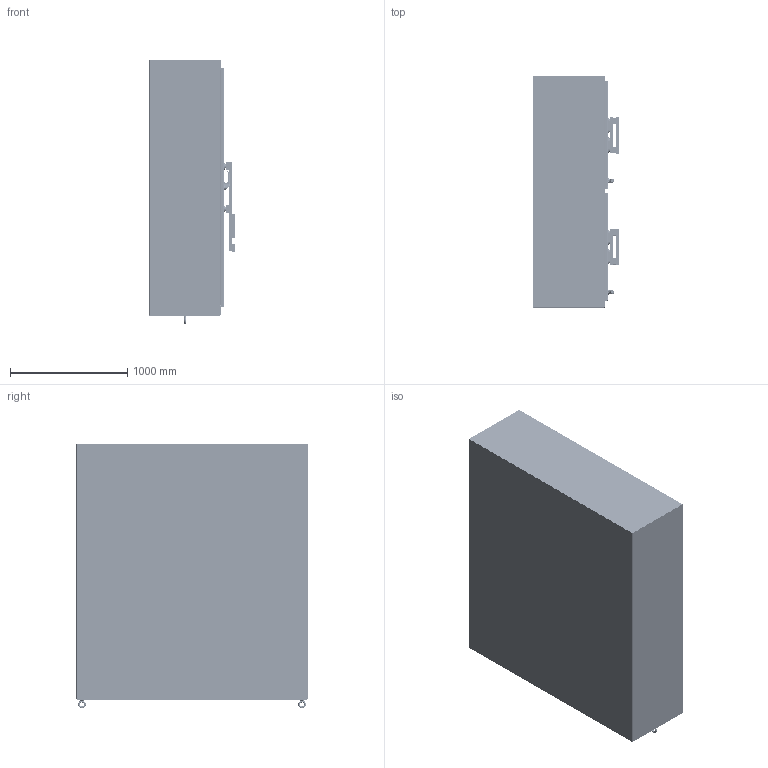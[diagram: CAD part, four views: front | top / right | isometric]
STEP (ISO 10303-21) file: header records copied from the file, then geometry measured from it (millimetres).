
FILE_DESCRIPTION((''),'2;1');
FILE_NAME('MODEL-462_ASM','2023-09-20T14:07:02',('richards'),('SAGINAW CONTROL & ENGINEERING'),'CREO PARAMETRIC BY PTC INC, 2021284','CREO PARAMETRIC BY PTC INC, 2021284','');
FILE_SCHEMA(('AUTOMOTIVE_DESIGN { 1 0 10303 214 1 1 1 1 }'));
Length unit declared in the file: inch
Products named in the file (115): MODEL-462-L-SD; MODEL-462-TP; MODEL-462-R-SD; MODEL-462-BTM; MODEL-462-RH-DR; 100837; 111267; 100882; 100953_HANDLE; 100953_HANDLE_INSERT; 100953_SHAFT_CAM; 100953_ADAPTER_CAM; 100953_NUT_CAM; 100953_BASE; 100953_O-RING; 100953_WASHER_SEALING; 100953_NUT_MOUNTING_LARGE; 100953_NUT_MOUNTING_SMALL; 100953_SCREW_SMALL; 100953_INSERT; 100953_PADLOCK_CATCH; 100953_ASM; 102237; 100030; 102237_ASM; MODEL-462-ROD-RH-UPR; 128146; 128145; 128144; 102482; MODEL-462-ROD-RH-UPR_ASM; 128143; 112504; MODEL-462-ROD-RH-LWR; MODEL-462-ROD-RH-LWR_ASM; MODEL-462-PR-GSKT-RH; DAPUP; DAPUP_ASM; 128258; 128258_ASM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
Assembly tree (253 placements, depth 4):
  MODEL-462_ASM
    MODEL-462-L-SD
    MODEL-462-TP
    MODEL-462-R-SD
    MODEL-462-BTM
    MODEL-462-RH-DOOR-ASSY_ASM
      MODEL-462-RH-DR
      100837  x7
      111267
      100882  x12
      100953_ASM
        100953_HANDLE
        100953_HANDLE_INSERT
        100953_SHAFT_CAM
        100953_ADAPTER_CAM
        100953_NUT_CAM
        100953_BASE
        100953_O-RING
        100953_WASHER_SEALING
        100953_NUT_MOUNTING_LARGE
        100953_NUT_MOUNTING_SMALL
        100953_SCREW_SMALL
        100953_INSERT
        100953_PADLOCK_CATCH
      102237_ASM
        102237
        100030  x2
      MODEL-462-ROD-RH-UPR_ASM
        MODEL-462-ROD-RH-UPR
        128146
        128145
        128144
        102482  x2
      128143  x2
      112504  x2
      MODEL-462-ROD-RH-LWR_ASM
        MODEL-462-ROD-RH-LWR
        128146
        128145
        128144
        102482  x2
      MODEL-462-PR-GSKT-RH
      DAPUP_ASM
        DAPUP  x2
      128258_ASM  x4
        128258
      126395  x4
      102483  x4
      101383_ASM  x4
        101383
        101383-STUD
      101221  x4
    MODEL-462-LH-DOOR-ASSY_ASM
      MODEL-462-LH-DR
      100837  x3
      100957_ASM
        100957_HANDLE
        100957_HANDLE_INSERT
        100957_SHAFT_CAM
        100957_ADAPTER_CAM
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Bounding box: 730.17 x 1974.85 x 2259.2 mm (x, y, z)
Volume: 74971253.4 mm3; surface area: 41944225.2 mm2
Topology: 293 solids, 293 shells, 24104 faces, 61974 edges, 38548 vertices
Faces by surface type: plane 8475, cylinder 6594, bspline 4875, torus 1779, cone 1352, sphere 708, extrusion 321
Entity records: 602609 total; most frequent: CARTESIAN_POINT 245543, ORIENTED_EDGE 53500, DIRECTION 50717, PRESENTATION_STYLE_ASSIGNMENT 27968, STYLED_ITEM 27493, CURVE_STYLE 26750, EDGE_CURVE 26750, AXIS2_PLACEMENT_3D 18953
